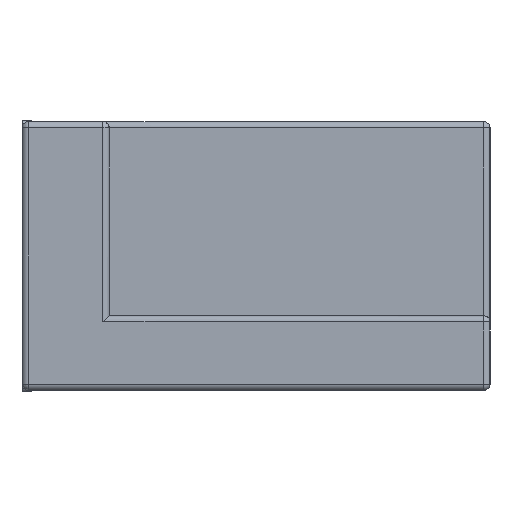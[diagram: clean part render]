
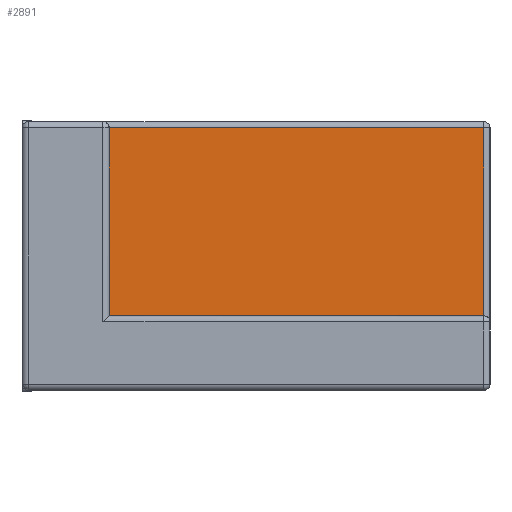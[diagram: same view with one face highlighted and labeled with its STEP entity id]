
A CAD part, left-side view. The second image highlights one B-rep face of the part: STEP entity #2891.
In plain terms, the highlighted planar face has unit normal (-1, 0, 0).
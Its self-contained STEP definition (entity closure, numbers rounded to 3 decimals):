
#22 = CARTESIAN_POINT ( 'NONE',  ( -21.5, 5.9, -2.4 ) ) ;
#178 = VECTOR ( 'NONE', #2988, 1000. ) ;
#187 = CARTESIAN_POINT ( 'NONE',  ( -21.5, -9.15, -23.678 ) ) ;
#275 = AXIS2_PLACEMENT_3D ( 'NONE', #1604, #1578, #1894 ) ;
#313 = ORIENTED_EDGE ( 'NONE', *, *, #1840, .T. ) ;
#373 = FACE_OUTER_BOUND ( 'NONE', #3690, .T. ) ;
#432 = VERTEX_POINT ( 'NONE', #3159 ) ;
#545 = VERTEX_POINT ( 'NONE', #1494 ) ;
#617 = CARTESIAN_POINT ( 'NONE',  ( -21.5, 5.9, -2.4 ) ) ;
#866 = EDGE_CURVE ( 'NONE', #3171, #432, #1069, .T. ) ;
#959 = VECTOR ( 'NONE', #3351, 1000. ) ;
#975 = ORIENTED_EDGE ( 'NONE', *, *, #866, .T. ) ;
#1046 = EDGE_CURVE ( 'NONE', #1051, #3171, #3281, .T. ) ;
#1049 = CARTESIAN_POINT ( 'NONE',  ( -21.5, 5.9, 5.15 ) ) ;
#1051 = VERTEX_POINT ( 'NONE', #22 ) ;
#1069 = LINE ( 'NONE', #187, #3037 ) ;
#1316 = LINE ( 'NONE', #1049, #1475 ) ;
#1349 = CARTESIAN_POINT ( 'NONE',  ( -21.5, 5.9, -23.678 ) ) ;
#1475 = VECTOR ( 'NONE', #2177, 1000. ) ;
#1494 = CARTESIAN_POINT ( 'NONE',  ( -21.5, 5.9, 5.15 ) ) ;
#1578 = DIRECTION ( 'NONE',  ( 1., 0., 0. ) ) ;
#1604 = CARTESIAN_POINT ( 'NONE',  ( -21.5, 5.9, -23.678 ) ) ;
#1840 = EDGE_CURVE ( 'NONE', #432, #545, #1316, .T. ) ;
#1894 = DIRECTION ( 'NONE',  ( 0., 1., 0. ) ) ;
#1914 = LINE ( 'NONE', #1349, #959 ) ;
#2169 = PLANE ( 'NONE',  #275 ) ;
#2177 = DIRECTION ( 'NONE',  ( 0., 1., 0. ) ) ;
#2241 = DIRECTION ( 'NONE',  ( 0., 0., 1. ) ) ;
#2266 = ORIENTED_EDGE ( 'NONE', *, *, #1046, .T. ) ;
#2771 = ORIENTED_EDGE ( 'NONE', *, *, #2857, .F. ) ;
#2857 = EDGE_CURVE ( 'NONE', #1051, #545, #1914, .T. ) ;
#2891 = ADVANCED_FACE ( 'NONE', ( #373 ), #2169, .F. ) ;
#2988 = DIRECTION ( 'NONE',  ( 0., -1., 0. ) ) ;
#3037 = VECTOR ( 'NONE', #2241, 1000. ) ;
#3159 = CARTESIAN_POINT ( 'NONE',  ( -21.5, -9.15, 5.15 ) ) ;
#3171 = VERTEX_POINT ( 'NONE', #3346 ) ;
#3281 = LINE ( 'NONE', #617, #178 ) ;
#3346 = CARTESIAN_POINT ( 'NONE',  ( -21.5, -9.15, -2.4 ) ) ;
#3351 = DIRECTION ( 'NONE',  ( 0., 0., 1. ) ) ;
#3690 = EDGE_LOOP ( 'NONE', ( #2266, #975, #313, #2771 ) ) ;
